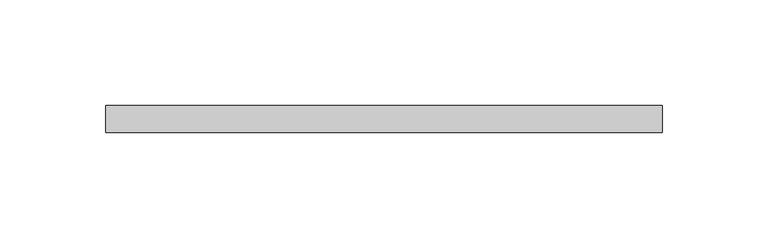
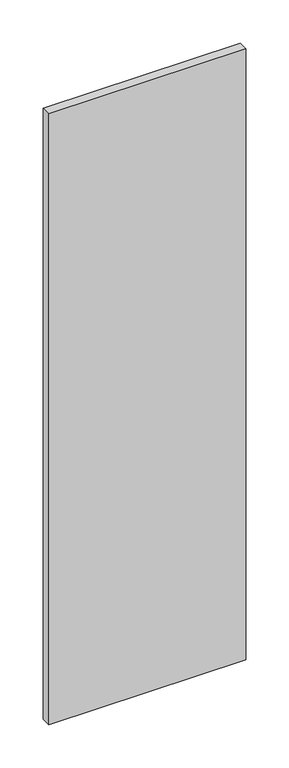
"""IFC4 building model written with IfcOpenShell, lengths in millimetres: proxy geometry, LIVERS_ICN - Glass Panel : LIVERS_ICN - Glass Panel."""

from ifc_helpers import new_model, si_unit, frame, origin, place, context, project, spatial, polyline, outline, extrude, source, transform, mapped, element, save


def building_element_proxy_c150a887(model_context):
    return source(origin(), model_context, "Body", "SweptSolid", [
        extrude(outline(polyline([(763.0886281, 34.1309994), (499.6836203, 34.1309994), (499.6836203, 46.8311957), (763.0886281, 46.8311957), (763.0886281, 34.1309994)])), frame((0.0, 0.0, 114.3), z_axis=(0.0, 0.0, 1.0), x_axis=(1.0, 0.0, 0.0)), (0.0, 0.0, 1.0), 863.6),
    ])


if __name__ == "__main__":
    model = new_model("IFC4")
    model_context = context("Model", 3, world=origin())
    ifc_project = project(units=[si_unit("LENGTHUNIT", "METRE", prefix="MILLI")], contexts=[model_context])
    site = spatial("IfcSite", under=ifc_project)
    building = spatial("IfcBuilding", under=site)
    placement = place(None, origin())
    building_element_proxy_shape = building_element_proxy_c150a887(model_context)
    element("IfcBuildingElementProxy", 1, Name="LIVERS_ICN - Glass Panel : LIVERS_ICN - Glass Panel", ObjectType="LIVERS_ICN - Glass Panel : LIVERS_ICN - Glass Panel", at=placement, inside=building, context=model_context, shape_type="MappedRepresentation", body=[
        mapped(building_element_proxy_shape, transform((0.0, 0.0, 0.0), x_axis=(1.0, 0.0, 0.0), y_axis=(0.0, 1.0, 0.0), z_axis=(0.0, 0.0, 1.0))),
    ])
    save(model, "model.ifc")
